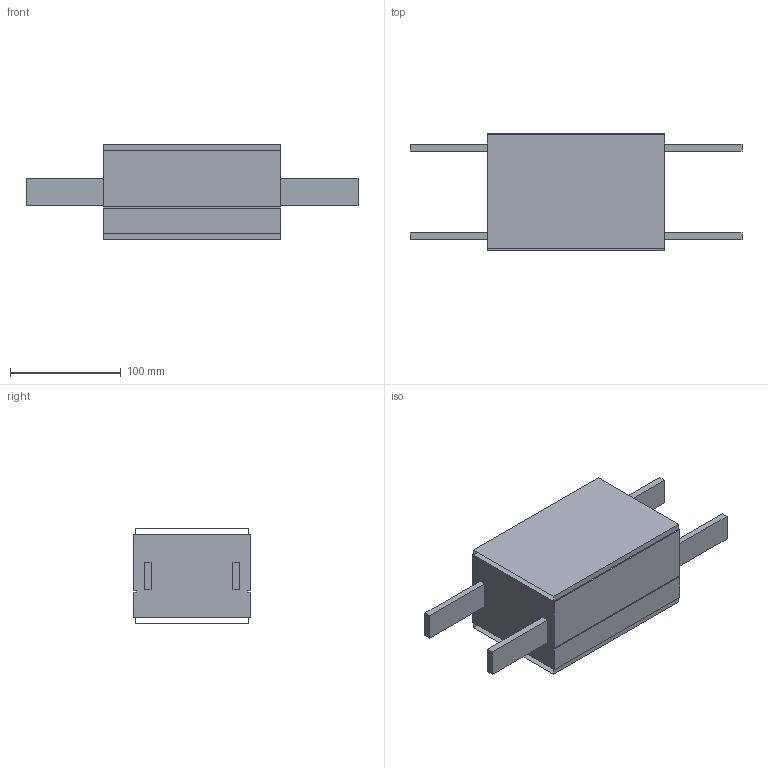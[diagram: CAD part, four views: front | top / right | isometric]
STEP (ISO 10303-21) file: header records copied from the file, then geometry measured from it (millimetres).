
FILE_DESCRIPTION(/* description */ ('Kettenmontageeinheit FH'),/* implementation_level */ '2;1');
FILE_NAME(/* name */ 'T:\vdz0\Step Daten Website\modulflex FH-System\Kettenmontageeinheit\FHCC 160_44128.stp',/* time_stamp */ '2024-08-22T09:56:10+02:00',/* author */ ('vdz0'),/* organization */ ('modular automation GmbH'),/* preprocessor_version */ 'ST-DEVELOPER v18.1',/* originating_system */ 'Autodesk Inventor 2021',/* authorisation */ '');
FILE_SCHEMA (('CONFIG_CONTROL_DESIGN'));
Length unit declared in the file: millimetre
Products named in the file (1): FHCC 160_44128
Bounding box: 300 x 105 x 86 mm (x, y, z)
Volume: 1343360 mm3; surface area: 179982 mm2
Topology: 5 solids, 7 shells, 46 faces, 108 edges, 72 vertices
Faces by surface type: plane 46
Entity records: 1351 total; most frequent: CARTESIAN_POINT 227, DIRECTION 202, ORIENTED_EDGE 200, LINE 108, VECTOR 108, EDGE_CURVE 108, VERTEX_POINT 72, AXIS2_PLACEMENT_3D 47
